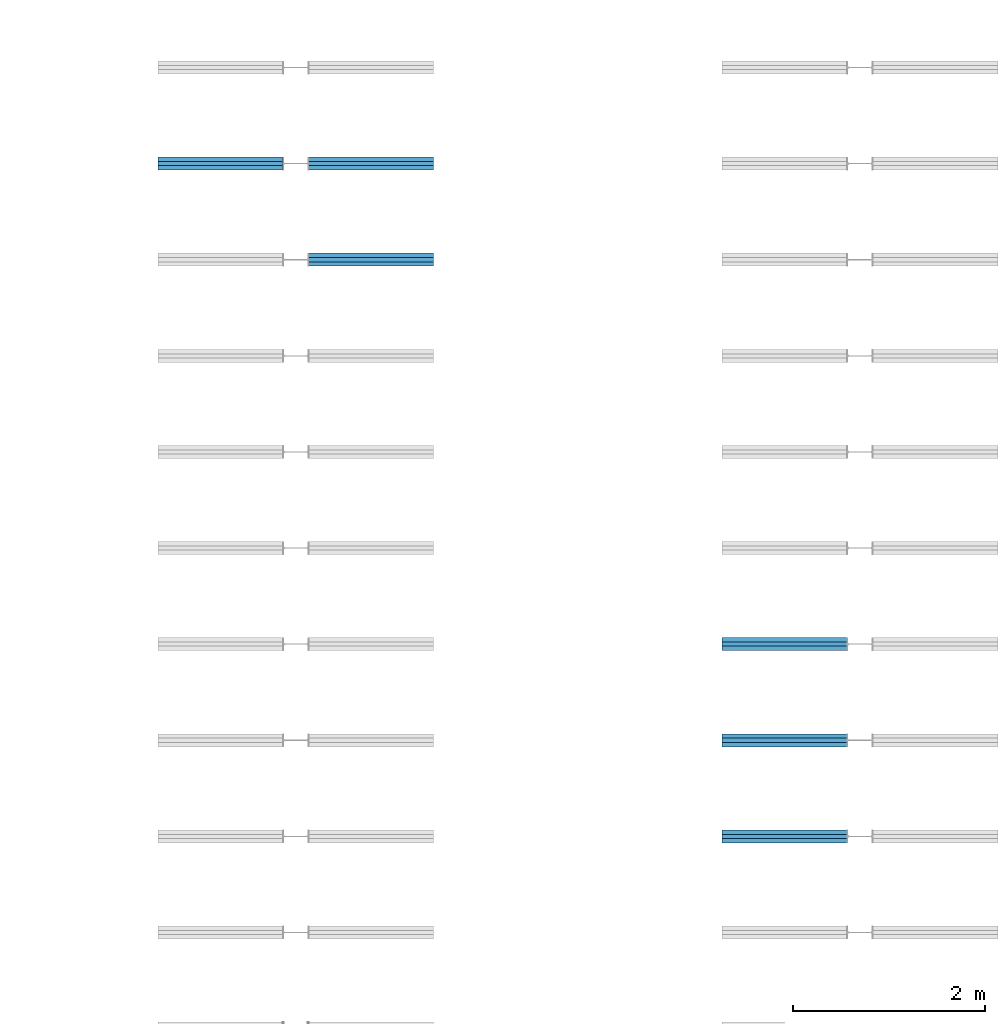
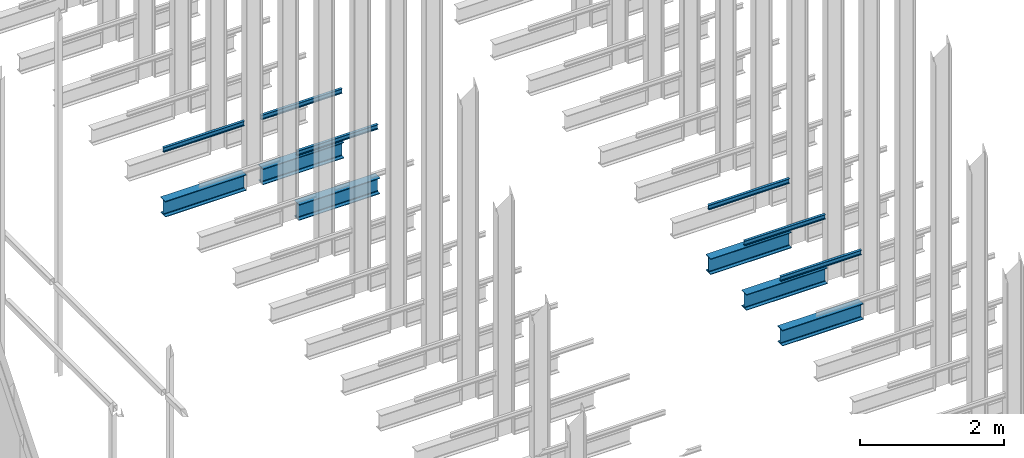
# One storey, part 168 of 302: 12 beams.
"""IFC2X3 building model written with IfcOpenShell, lengths in metres."""

from ifc_helpers import new_model, entity, si_unit, converted_unit, derived_unit, direction, frame, frame_2d, origin, place, context, subcontext, project, spatial, polyline, circle_curve, parameter, trimmed, segment, composite_curve, i_section, outline, extrude, material, type_object, element, save


model = new_model("IFC2X3")

# Units and contexts
model_context = context("Model", 3, precision=1e-05, world=origin(), true_north=direction((6.12303176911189e-17, 1.0)))
body_context = subcontext(model_context, "Body", "Model", "MODEL_VIEW")
ifc_project = project(units=[si_unit("LENGTHUNIT", "METRE"), si_unit("AREAUNIT", "SQUARE_METRE"), si_unit("VOLUMEUNIT", "CUBIC_METRE"), converted_unit("PLANEANGLEUNIT", "DEGREE", entity("IfcRatioMeasure", 0.0174532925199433), si_unit("PLANEANGLEUNIT", "RADIAN"), dimensions=[0, 0, 0, 0, 0, 0, 0]), si_unit("MASSUNIT", "GRAM", prefix="KILO"), derived_unit("MASSDENSITYUNIT", [(si_unit("MASSUNIT", "GRAM", prefix="KILO"), 1), (si_unit("LENGTHUNIT", "METRE"), -3)]), derived_unit("MOMENTOFINERTIAUNIT", [(si_unit("LENGTHUNIT", "METRE"), 4)]), si_unit("TIMEUNIT", "SECOND"), si_unit("FREQUENCYUNIT", "HERTZ"), si_unit("THERMODYNAMICTEMPERATUREUNIT", "DEGREE_CELSIUS"), derived_unit("THERMALTRANSMITTANCEUNIT", [(si_unit("MASSUNIT", "GRAM", prefix="KILO"), 1), (si_unit("THERMODYNAMICTEMPERATUREUNIT", "KELVIN"), -1), (si_unit("TIMEUNIT", "SECOND"), -3)]), derived_unit("VOLUMETRICFLOWRATEUNIT", [(si_unit("LENGTHUNIT", "METRE"), 3), (si_unit("TIMEUNIT", "SECOND"), -1)]), si_unit("ELECTRICCURRENTUNIT", "AMPERE"), si_unit("ELECTRICVOLTAGEUNIT", "VOLT"), si_unit("POWERUNIT", "WATT"), si_unit("FORCEUNIT", "NEWTON", prefix="KILO"), si_unit("ILLUMINANCEUNIT", "LUX"), si_unit("LUMINOUSFLUXUNIT", "LUMEN"), si_unit("LUMINOUSINTENSITYUNIT", "CANDELA"), derived_unit("USERDEFINED", [(si_unit("MASSUNIT", "GRAM", prefix="KILO"), -1), (si_unit("LENGTHUNIT", "METRE"), -2), (si_unit("TIMEUNIT", "SECOND"), 3), (si_unit("LUMINOUSFLUXUNIT", "LUMEN"), 1)]), derived_unit("LINEARVELOCITYUNIT", [(si_unit("LENGTHUNIT", "METRE"), 1), (si_unit("TIMEUNIT", "SECOND"), -1)]), si_unit("PRESSUREUNIT", "PASCAL"), derived_unit("USERDEFINED", [(si_unit("LENGTHUNIT", "METRE"), -2), (si_unit("MASSUNIT", "GRAM", prefix="KILO"), 1), (si_unit("TIMEUNIT", "SECOND"), -2)]), derived_unit("LINEARFORCEUNIT", [(si_unit("MASSUNIT", "GRAM", prefix="KILO"), 1), (si_unit("LENGTHUNIT", "METRE"), 1), (si_unit("TIMEUNIT", "SECOND"), -2), (si_unit("LENGTHUNIT", "METRE"), -1)]), derived_unit("PLANARFORCEUNIT", [(si_unit("MASSUNIT", "GRAM", prefix="KILO"), 1), (si_unit("LENGTHUNIT", "METRE"), 1), (si_unit("TIMEUNIT", "SECOND"), -2), (si_unit("LENGTHUNIT", "METRE"), -2)])], contexts=[model_context])

# Site, building, storey
site_placement = place(None, origin())
site = spatial("IfcSite", under=ifc_project, at=site_placement, Name="Default", CompositionType="ELEMENT")
building_placement = place(site_placement, origin())
building = spatial("IfcBuilding", under=site, at=building_placement, CompositionType="ELEMENT")
storey_placement = place(building_placement, frame((0.0, 0.0, -1.3)))
storey = spatial("IfcBuildingStorey", under=building, at=storey_placement, Name="00_EG", CompositionType="ELEMENT", Elevation=-1.3)

# Beams
ifc_material = material(Name="Metall - Baustahl S235")
beam_type_1 = type_object("IfcBeamType", Name="IPN Träger:IPN 80", PredefinedType="NOTDEFINED")
beam_1_placement = place(storey_placement, frame((-170.510111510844, 38.994588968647, 2.42)))
element("IfcBeam", 1, at=beam_1_placement, inside=storey, type_object=beam_type_1, material=ifc_material, Name="IPN Träger:IPN 80", ObjectType="IPN Träger:IPN 80", context=body_context, shape_type="SweptSolid", body=[
    extrude(outline(composite_curve([segment(polyline([(0.0375704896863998, -0.0209999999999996), (0.0399999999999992, -0.0209999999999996)]), True, "CONTINUOUS"), segment(polyline([(0.0399999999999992, -0.0210000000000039), (0.0399999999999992, 0.0209999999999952)]), True, "CONTINUOUS"), segment(polyline([(0.039999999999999, 0.0209999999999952), (0.037570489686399, 0.0209999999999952)]), True, "CONTINUOUS"), segment(trimmed(circle_curve(frame_2d((0.0375704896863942, 0.0187000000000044), x_axis=(0.0, 1.0)), 0.0022999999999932), [parameter(0.0)], [parameter(82.0300000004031)], True, "PARAMETER"), True, "CONTINUOUS"), segment(polyline([(0.0352927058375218, 0.019018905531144), (0.0333732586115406, 0.00530924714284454)]), True, "CONTINUOUS"), segment(trimmed(circle_curve(frame_2d((0.0295109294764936, 0.00584999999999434), x_axis=(0.990340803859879, -0.138654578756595)), 0.00389999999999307), [parameter(277.969999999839)], [parameter(0.0)], True, "PARAMETER"), False, "CONTINUOUS"), segment(polyline([(0.0295109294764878, 0.00194999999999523), (-0.0295109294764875, 0.00194999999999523)]), True, "CONTINUOUS"), segment(trimmed(circle_curve(frame_2d((-0.0295109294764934, 0.00584999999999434), x_axis=(0.0, -1.0)), 0.00389999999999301), [parameter(277.969999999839)], [parameter(0.0)], True, "PARAMETER"), False, "CONTINUOUS"), segment(polyline([(-0.0333732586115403, 0.00530924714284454), (-0.0352927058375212, 0.019018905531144)]), True, "CONTINUOUS"), segment(trimmed(circle_curve(frame_2d((-0.0375704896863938, 0.0187000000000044), x_axis=(0.990340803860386, 0.138654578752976)), 0.00229999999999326), [parameter(0.0)], [parameter(82.0300000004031)], True, "PARAMETER"), True, "CONTINUOUS"), segment(polyline([(-0.0375704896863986, 0.0209999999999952), (-0.0400000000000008, 0.0209999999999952)]), True, "CONTINUOUS"), segment(polyline([(-0.0400000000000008, 0.0210000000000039), (-0.0400000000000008, -0.0209999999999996)]), True, "CONTINUOUS"), segment(polyline([(-0.0400000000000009, -0.0209999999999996), (-0.037570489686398, -0.0209999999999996)]), True, "CONTINUOUS"), segment(trimmed(circle_curve(frame_2d((-0.0375704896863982, -0.0187000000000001), x_axis=(0.0, -1.0)), 0.00230000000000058), [parameter(0.0)], [parameter(82.029999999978)], True, "PARAMETER"), True, "CONTINUOUS"), segment(polyline([(-0.0352927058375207, -0.0190189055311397), (-0.0333732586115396, -0.00530924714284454)]), True, "CONTINUOUS"), segment(trimmed(circle_curve(frame_2d((-0.0295109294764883, -0.00584999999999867), x_axis=(-0.990340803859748, 0.138654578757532)), 0.00389999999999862), [parameter(277.969999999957)], [parameter(0.0)], True, "PARAMETER"), False, "CONTINUOUS"), segment(polyline([(-0.0295109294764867, -0.00194999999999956), (0.0295109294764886, -0.00194999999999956)]), True, "CONTINUOUS"), segment(trimmed(circle_curve(frame_2d((0.0295109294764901, -0.00584999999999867), x_axis=(0.0, 1.0)), 0.00389999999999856), [parameter(277.969999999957)], [parameter(0.0)], True, "PARAMETER"), False, "CONTINUOUS"), segment(polyline([(0.0333732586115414, -0.00530924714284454), (0.0352927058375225, -0.019018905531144)]), True, "CONTINUOUS"), segment(trimmed(circle_curve(frame_2d((0.0375704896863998, -0.0187000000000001), x_axis=(-0.990340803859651, -0.138654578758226)), 0.00230000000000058), [parameter(0.0)], [parameter(82.029999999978)], True, "PARAMETER"), True, "CONTINUOUS")], self_intersect=False)), frame((0.000100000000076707, 0.0209999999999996, -0.0400000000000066), z_axis=(1.0, 0.0, 0.0), x_axis=(0.0, 0.0, -1.0)), (0.0, 0.0, 1.0), 1.29990000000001),
])
beam_2_placement = place(storey_placement, frame((-170.780111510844, 39.036588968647, 2.42), z_axis=(0.0, 0.0, 1.0), x_axis=(-1.0, 0.0, 0.0)))
element("IfcBeam", 2, at=beam_2_placement, inside=storey, type_object=beam_type_1, material=ifc_material, Name="IPN Träger:IPN 80", ObjectType="IPN Träger:IPN 80", context=body_context, shape_type="SweptSolid", body=[
    extrude(outline(composite_curve([segment(polyline([(0.0375704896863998, -0.0210000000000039), (0.0399999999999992, -0.0210000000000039)]), True, "CONTINUOUS"), segment(polyline([(0.0399999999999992, -0.0210000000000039), (0.0399999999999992, 0.0209999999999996)]), True, "CONTINUOUS"), segment(polyline([(0.039999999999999, 0.0209999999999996), (0.037570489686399, 0.0209999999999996)]), True, "CONTINUOUS"), segment(trimmed(circle_curve(frame_2d((0.037570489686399, 0.0187000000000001), x_axis=(0.0, 1.0)), 0.00230000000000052), [parameter(0.0)], [parameter(82.0299999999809)], True, "PARAMETER"), True, "CONTINUOUS"), segment(polyline([(0.0352927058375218, 0.0190189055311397), (0.0333732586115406, 0.0053092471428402)]), True, "CONTINUOUS"), segment(trimmed(circle_curve(frame_2d((0.0295109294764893, 0.00584999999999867), x_axis=(0.990340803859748, -0.138654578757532)), 0.00389999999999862), [parameter(277.969999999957)], [parameter(0.0)], True, "PARAMETER"), False, "CONTINUOUS"), segment(polyline([(0.0295109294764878, 0.00194999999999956), (-0.0295109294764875, 0.00194999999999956)]), True, "CONTINUOUS"), segment(trimmed(circle_curve(frame_2d((-0.029510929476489, 0.00584999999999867), x_axis=(0.0, -1.0)), 0.00389999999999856), [parameter(277.969999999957)], [parameter(0.0)], True, "PARAMETER"), False, "CONTINUOUS"), segment(polyline([(-0.0333732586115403, 0.00530924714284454), (-0.0352927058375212, 0.019018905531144)]), True, "CONTINUOUS"), segment(trimmed(circle_curve(frame_2d((-0.0375704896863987, 0.0187000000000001), x_axis=(0.990340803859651, 0.138654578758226)), 0.00230000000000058), [parameter(0.0)], [parameter(82.029999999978)], True, "PARAMETER"), True, "CONTINUOUS"), segment(polyline([(-0.0375704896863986, 0.0209999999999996), (-0.0400000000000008, 0.0209999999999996)]), True, "CONTINUOUS"), segment(polyline([(-0.0400000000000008, 0.0209999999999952), (-0.0400000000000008, -0.0210000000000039)]), True, "CONTINUOUS"), segment(polyline([(-0.0400000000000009, -0.0210000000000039), (-0.037570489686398, -0.0210000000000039)]), True, "CONTINUOUS"), segment(trimmed(circle_curve(frame_2d((-0.0375704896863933, -0.0187000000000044), x_axis=(0.0, -1.0)), 0.00229999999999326), [parameter(0.0)], [parameter(82.0300000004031)], True, "PARAMETER"), True, "CONTINUOUS"), segment(polyline([(-0.0352927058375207, -0.019018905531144), (-0.0333732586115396, -0.00530924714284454)]), True, "CONTINUOUS"), segment(trimmed(circle_curve(frame_2d((-0.0295109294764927, -0.00584999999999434), x_axis=(-0.990340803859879, 0.138654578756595)), 0.00389999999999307), [parameter(277.969999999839)], [parameter(0.0)], True, "PARAMETER"), False, "CONTINUOUS"), segment(polyline([(-0.0295109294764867, -0.00195000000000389), (0.0295109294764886, -0.00195000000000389)]), True, "CONTINUOUS"), segment(trimmed(circle_curve(frame_2d((0.0295109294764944, -0.00584999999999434), x_axis=(0.0, 1.0)), 0.00389999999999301), [parameter(277.969999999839)], [parameter(0.0)], True, "PARAMETER"), False, "CONTINUOUS"), segment(polyline([(0.0333732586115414, -0.00530924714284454), (0.0352927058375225, -0.019018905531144)]), True, "CONTINUOUS"), segment(trimmed(circle_curve(frame_2d((0.0375704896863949, -0.0187000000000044), x_axis=(-0.990340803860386, -0.138654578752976)), 0.00229999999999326), [parameter(0.0)], [parameter(82.0300000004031)], True, "PARAMETER"), True, "CONTINUOUS")], self_intersect=False)), frame((0.000100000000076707, 0.0209999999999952, -0.0400000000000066), z_axis=(1.0, 0.0, 0.0), x_axis=(0.0, 0.0, -1.0)), (0.0, 0.0, 1.0), 1.29990000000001),
])
beam_3_placement = place(storey_placement, frame((-170.510111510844, 37.994588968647, 2.42)))
element("IfcBeam", 3, at=beam_3_placement, inside=storey, type_object=beam_type_1, material=ifc_material, Name="IPN Träger:IPN 80", ObjectType="IPN Träger:IPN 80", context=body_context, shape_type="SweptSolid", body=[
    extrude(outline(composite_curve([segment(polyline([(0.0375704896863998, -0.0209999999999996), (0.0399999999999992, -0.0209999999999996)]), True, "CONTINUOUS"), segment(polyline([(0.0399999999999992, -0.0209999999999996), (0.0399999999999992, 0.0209999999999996)]), True, "CONTINUOUS"), segment(polyline([(0.039999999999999, 0.0209999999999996), (0.037570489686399, 0.0209999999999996)]), True, "CONTINUOUS"), segment(trimmed(circle_curve(frame_2d((0.037570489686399, 0.0187000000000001), x_axis=(0.0, 1.0)), 0.00230000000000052), [parameter(0.0)], [parameter(82.0299999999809)], True, "PARAMETER"), True, "CONTINUOUS"), segment(polyline([(0.0352927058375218, 0.0190189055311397), (0.0333732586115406, 0.00530924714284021)]), True, "CONTINUOUS"), segment(trimmed(circle_curve(frame_2d((0.0295109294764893, 0.00584999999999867), x_axis=(0.990340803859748, -0.138654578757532)), 0.00389999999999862), [parameter(277.969999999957)], [parameter(0.0)], True, "PARAMETER"), False, "CONTINUOUS"), segment(polyline([(0.0295109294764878, 0.00194999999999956), (-0.0295109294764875, 0.00194999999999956)]), True, "CONTINUOUS"), segment(trimmed(circle_curve(frame_2d((-0.029510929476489, 0.00584999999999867), x_axis=(0.0, -1.0)), 0.00389999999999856), [parameter(277.969999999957)], [parameter(0.0)], True, "PARAMETER"), False, "CONTINUOUS"), segment(polyline([(-0.0333732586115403, 0.00530924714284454), (-0.0352927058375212, 0.019018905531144)]), True, "CONTINUOUS"), segment(trimmed(circle_curve(frame_2d((-0.0375704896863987, 0.0187000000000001), x_axis=(0.990340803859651, 0.138654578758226)), 0.00230000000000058), [parameter(0.0)], [parameter(82.029999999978)], True, "PARAMETER"), True, "CONTINUOUS"), segment(polyline([(-0.0375704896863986, 0.0209999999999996), (-0.0400000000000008, 0.0209999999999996)]), True, "CONTINUOUS"), segment(polyline([(-0.0400000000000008, 0.0209999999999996), (-0.0400000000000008, -0.0209999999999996)]), True, "CONTINUOUS"), segment(polyline([(-0.0400000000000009, -0.0209999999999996), (-0.037570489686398, -0.0209999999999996)]), True, "CONTINUOUS"), segment(trimmed(circle_curve(frame_2d((-0.0375704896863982, -0.0187000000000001), x_axis=(0.0, -1.0)), 0.00230000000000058), [parameter(0.0)], [parameter(82.029999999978)], True, "PARAMETER"), True, "CONTINUOUS"), segment(polyline([(-0.0352927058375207, -0.0190189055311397), (-0.0333732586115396, -0.00530924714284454)]), True, "CONTINUOUS"), segment(trimmed(circle_curve(frame_2d((-0.0295109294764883, -0.00584999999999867), x_axis=(-0.990340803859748, 0.138654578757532)), 0.00389999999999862), [parameter(277.969999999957)], [parameter(0.0)], True, "PARAMETER"), False, "CONTINUOUS"), segment(polyline([(-0.0295109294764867, -0.00194999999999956), (0.0295109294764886, -0.00194999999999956)]), True, "CONTINUOUS"), segment(trimmed(circle_curve(frame_2d((0.0295109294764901, -0.00584999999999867), x_axis=(0.0, 1.0)), 0.00389999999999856), [parameter(277.969999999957)], [parameter(0.0)], True, "PARAMETER"), False, "CONTINUOUS"), segment(polyline([(0.0333732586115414, -0.00530924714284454), (0.0352927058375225, -0.019018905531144)]), True, "CONTINUOUS"), segment(trimmed(circle_curve(frame_2d((0.0375704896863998, -0.0187000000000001), x_axis=(-0.990340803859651, -0.138654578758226)), 0.00230000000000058), [parameter(0.0)], [parameter(82.029999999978)], True, "PARAMETER"), True, "CONTINUOUS")], self_intersect=False)), frame((0.000100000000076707, 0.0209999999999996, -0.0400000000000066), z_axis=(1.0, 0.0, 0.0), x_axis=(0.0, 0.0, -1.0)), (0.0, 0.0, 1.0), 1.29990000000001),
])
beam_4_placement = place(storey_placement, frame((-164.910111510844, 34.036588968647, 2.42), z_axis=(0.0, 0.0, 1.0), x_axis=(-1.0, 0.0, 0.0)))
element("IfcBeam", 4, at=beam_4_placement, inside=storey, type_object=beam_type_1, material=ifc_material, Name="IPN Träger:IPN 80", ObjectType="IPN Träger:IPN 80", context=body_context, shape_type="SweptSolid", body=[
    extrude(outline(composite_curve([segment(polyline([(0.0375704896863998, -0.0209999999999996), (0.0399999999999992, -0.0209999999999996)]), True, "CONTINUOUS"), segment(polyline([(0.0399999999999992, -0.0209999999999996), (0.0399999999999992, 0.0209999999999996)]), True, "CONTINUOUS"), segment(polyline([(0.039999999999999, 0.0209999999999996), (0.037570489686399, 0.0209999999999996)]), True, "CONTINUOUS"), segment(trimmed(circle_curve(frame_2d((0.037570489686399, 0.0187000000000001), x_axis=(0.0, 1.0)), 0.00230000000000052), [parameter(0.0)], [parameter(82.0299999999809)], True, "PARAMETER"), True, "CONTINUOUS"), segment(polyline([(0.0352927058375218, 0.0190189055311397), (0.0333732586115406, 0.00530924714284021)]), True, "CONTINUOUS"), segment(trimmed(circle_curve(frame_2d((0.0295109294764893, 0.00584999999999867), x_axis=(0.990340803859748, -0.138654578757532)), 0.00389999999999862), [parameter(277.969999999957)], [parameter(0.0)], True, "PARAMETER"), False, "CONTINUOUS"), segment(polyline([(0.0295109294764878, 0.00194999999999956), (-0.0295109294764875, 0.00194999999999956)]), True, "CONTINUOUS"), segment(trimmed(circle_curve(frame_2d((-0.029510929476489, 0.00584999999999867), x_axis=(0.0, -1.0)), 0.00389999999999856), [parameter(277.969999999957)], [parameter(0.0)], True, "PARAMETER"), False, "CONTINUOUS"), segment(polyline([(-0.0333732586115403, 0.00530924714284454), (-0.0352927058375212, 0.019018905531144)]), True, "CONTINUOUS"), segment(trimmed(circle_curve(frame_2d((-0.0375704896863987, 0.0187000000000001), x_axis=(0.990340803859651, 0.138654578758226)), 0.00230000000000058), [parameter(0.0)], [parameter(82.029999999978)], True, "PARAMETER"), True, "CONTINUOUS"), segment(polyline([(-0.0375704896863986, 0.0209999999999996), (-0.0400000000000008, 0.0209999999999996)]), True, "CONTINUOUS"), segment(polyline([(-0.0400000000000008, 0.0209999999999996), (-0.0400000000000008, -0.0209999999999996)]), True, "CONTINUOUS"), segment(polyline([(-0.0400000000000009, -0.0209999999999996), (-0.037570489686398, -0.0209999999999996)]), True, "CONTINUOUS"), segment(trimmed(circle_curve(frame_2d((-0.0375704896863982, -0.0187000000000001), x_axis=(0.0, -1.0)), 0.00230000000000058), [parameter(0.0)], [parameter(82.029999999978)], True, "PARAMETER"), True, "CONTINUOUS"), segment(polyline([(-0.0352927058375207, -0.0190189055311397), (-0.0333732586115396, -0.00530924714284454)]), True, "CONTINUOUS"), segment(trimmed(circle_curve(frame_2d((-0.0295109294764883, -0.00584999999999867), x_axis=(-0.990340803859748, 0.138654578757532)), 0.00389999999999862), [parameter(277.969999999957)], [parameter(0.0)], True, "PARAMETER"), False, "CONTINUOUS"), segment(polyline([(-0.0295109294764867, -0.00194999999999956), (0.0295109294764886, -0.00194999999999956)]), True, "CONTINUOUS"), segment(trimmed(circle_curve(frame_2d((0.0295109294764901, -0.00584999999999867), x_axis=(0.0, 1.0)), 0.00389999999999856), [parameter(277.969999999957)], [parameter(0.0)], True, "PARAMETER"), False, "CONTINUOUS"), segment(polyline([(0.0333732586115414, -0.00530924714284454), (0.0352927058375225, -0.019018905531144)]), True, "CONTINUOUS"), segment(trimmed(circle_curve(frame_2d((0.0375704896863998, -0.0187000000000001), x_axis=(-0.990340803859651, -0.138654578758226)), 0.00230000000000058), [parameter(0.0)], [parameter(82.029999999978)], True, "PARAMETER"), True, "CONTINUOUS")], self_intersect=False)), frame((0.000100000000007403, 0.0209999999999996, -0.0400000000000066), z_axis=(1.0, 0.0, 0.0), x_axis=(0.0, 0.0, -1.0)), (0.0, 0.0, 1.0), 1.29990000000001),
])
beam_5_placement = place(storey_placement, frame((-164.910111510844, 33.036588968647, 2.42), z_axis=(0.0, 0.0, 1.0), x_axis=(-1.0, 0.0, 0.0)))
element("IfcBeam", 5, at=beam_5_placement, inside=storey, type_object=beam_type_1, material=ifc_material, Name="IPN Träger:IPN 80", ObjectType="IPN Träger:IPN 80", context=body_context, shape_type="SweptSolid", body=[
    extrude(outline(composite_curve([segment(polyline([(0.0375704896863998, -0.0209999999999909), (0.0399999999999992, -0.0209999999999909)]), True, "CONTINUOUS"), segment(polyline([(0.0399999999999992, -0.0209999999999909), (0.0399999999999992, 0.0210000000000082)]), True, "CONTINUOUS"), segment(polyline([(0.039999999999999, 0.0210000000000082), (0.037570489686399, 0.0210000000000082)]), True, "CONTINUOUS"), segment(trimmed(circle_curve(frame_2d((0.037570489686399, 0.0187000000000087), x_axis=(0.0, 1.0)), 0.00230000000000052), [parameter(0.0)], [parameter(82.0299999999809)], True, "PARAMETER"), True, "CONTINUOUS"), segment(polyline([(0.0352927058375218, 0.0190189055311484), (0.0333732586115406, 0.00530924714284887)]), True, "CONTINUOUS"), segment(trimmed(circle_curve(frame_2d((0.0295109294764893, 0.00585000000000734), x_axis=(0.990340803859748, -0.138654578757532)), 0.00389999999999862), [parameter(277.969999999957)], [parameter(0.0)], True, "PARAMETER"), False, "CONTINUOUS"), segment(polyline([(0.0295109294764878, 0.00195000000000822), (-0.0295109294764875, 0.00195000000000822)]), True, "CONTINUOUS"), segment(trimmed(circle_curve(frame_2d((-0.029510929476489, 0.00585000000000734), x_axis=(0.0, -1.0)), 0.00389999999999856), [parameter(277.969999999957)], [parameter(0.0)], True, "PARAMETER"), False, "CONTINUOUS"), segment(polyline([(-0.0333732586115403, 0.0053092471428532), (-0.0352927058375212, 0.0190189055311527)]), True, "CONTINUOUS"), segment(trimmed(circle_curve(frame_2d((-0.0375704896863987, 0.0187000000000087), x_axis=(0.990340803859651, 0.138654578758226)), 0.00230000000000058), [parameter(0.0)], [parameter(82.029999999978)], True, "PARAMETER"), True, "CONTINUOUS"), segment(polyline([(-0.0375704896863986, 0.0210000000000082), (-0.0400000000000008, 0.0210000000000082)]), True, "CONTINUOUS"), segment(polyline([(-0.0400000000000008, 0.0210000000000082), (-0.0400000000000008, -0.0209999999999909)]), True, "CONTINUOUS"), segment(polyline([(-0.0400000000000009, -0.0209999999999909), (-0.037570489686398, -0.0209999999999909)]), True, "CONTINUOUS"), segment(trimmed(circle_curve(frame_2d((-0.0375704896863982, -0.0186999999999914), x_axis=(0.0, -1.0)), 0.00230000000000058), [parameter(0.0)], [parameter(82.029999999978)], True, "PARAMETER"), True, "CONTINUOUS"), segment(polyline([(-0.0352927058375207, -0.019018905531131), (-0.0333732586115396, -0.00530924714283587)]), True, "CONTINUOUS"), segment(trimmed(circle_curve(frame_2d((-0.0295109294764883, -0.00584999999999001), x_axis=(-0.990340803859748, 0.138654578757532)), 0.00389999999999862), [parameter(277.969999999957)], [parameter(0.0)], True, "PARAMETER"), False, "CONTINUOUS"), segment(polyline([(-0.0295109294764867, -0.00194999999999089), (0.0295109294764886, -0.00194999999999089)]), True, "CONTINUOUS"), segment(trimmed(circle_curve(frame_2d((0.0295109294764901, -0.00584999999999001), x_axis=(0.0, 1.0)), 0.00389999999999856), [parameter(277.969999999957)], [parameter(0.0)], True, "PARAMETER"), False, "CONTINUOUS"), segment(polyline([(0.0333732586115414, -0.00530924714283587), (0.0352927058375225, -0.0190189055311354)]), True, "CONTINUOUS"), segment(trimmed(circle_curve(frame_2d((0.0375704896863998, -0.0186999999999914), x_axis=(-0.990340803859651, -0.138654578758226)), 0.00230000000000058), [parameter(0.0)], [parameter(82.029999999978)], True, "PARAMETER"), True, "CONTINUOUS")], self_intersect=False)), frame((0.000100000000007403, 0.0209999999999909, -0.0400000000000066), z_axis=(1.0, 0.0, 0.0), x_axis=(0.0, 0.0, -1.0)), (0.0, 0.0, 1.0), 1.29990000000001),
])
beam_6_placement = place(storey_placement, frame((-164.910111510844, 32.036588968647, 2.42), z_axis=(0.0, 0.0, 1.0), x_axis=(-1.0, 0.0, 0.0)))
element("IfcBeam", 6, at=beam_6_placement, inside=storey, type_object=beam_type_1, material=ifc_material, Name="IPN Träger:IPN 80", ObjectType="IPN Träger:IPN 80", context=body_context, shape_type="SweptSolid", body=[
    extrude(outline(composite_curve([segment(polyline([(0.0375704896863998, -0.0210000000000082), (0.0399999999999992, -0.0210000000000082)]), True, "CONTINUOUS"), segment(polyline([(0.0399999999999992, -0.0210000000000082), (0.0399999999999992, 0.0209999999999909)]), True, "CONTINUOUS"), segment(polyline([(0.039999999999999, 0.0209999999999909), (0.037570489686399, 0.0209999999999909)]), True, "CONTINUOUS"), segment(trimmed(circle_curve(frame_2d((0.037570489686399, 0.0186999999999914), x_axis=(0.0, 1.0)), 0.00230000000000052), [parameter(0.0)], [parameter(82.0299999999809)], True, "PARAMETER"), True, "CONTINUOUS"), segment(polyline([(0.0352927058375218, 0.019018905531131), (0.0333732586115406, 0.00530924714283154)]), True, "CONTINUOUS"), segment(trimmed(circle_curve(frame_2d((0.0295109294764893, 0.00584999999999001), x_axis=(0.990340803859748, -0.138654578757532)), 0.00389999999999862), [parameter(277.969999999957)], [parameter(0.0)], True, "PARAMETER"), False, "CONTINUOUS"), segment(polyline([(0.0295109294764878, 0.00194999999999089), (-0.0295109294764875, 0.00194999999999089)]), True, "CONTINUOUS"), segment(trimmed(circle_curve(frame_2d((-0.029510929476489, 0.00584999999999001), x_axis=(0.0, -1.0)), 0.00389999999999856), [parameter(277.969999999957)], [parameter(0.0)], True, "PARAMETER"), False, "CONTINUOUS"), segment(polyline([(-0.0333732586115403, 0.00530924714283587), (-0.0352927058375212, 0.0190189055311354)]), True, "CONTINUOUS"), segment(trimmed(circle_curve(frame_2d((-0.0375704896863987, 0.0186999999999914), x_axis=(0.990340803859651, 0.138654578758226)), 0.00230000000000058), [parameter(0.0)], [parameter(82.029999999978)], True, "PARAMETER"), True, "CONTINUOUS"), segment(polyline([(-0.0375704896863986, 0.0209999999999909), (-0.0400000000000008, 0.0209999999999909)]), True, "CONTINUOUS"), segment(polyline([(-0.0400000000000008, 0.0209999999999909), (-0.0400000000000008, -0.0210000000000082)]), True, "CONTINUOUS"), segment(polyline([(-0.0400000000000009, -0.0210000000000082), (-0.037570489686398, -0.0210000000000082)]), True, "CONTINUOUS"), segment(trimmed(circle_curve(frame_2d((-0.0375704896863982, -0.0187000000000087), x_axis=(0.0, -1.0)), 0.00230000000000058), [parameter(0.0)], [parameter(82.029999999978)], True, "PARAMETER"), True, "CONTINUOUS"), segment(polyline([(-0.0352927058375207, -0.0190189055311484), (-0.0333732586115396, -0.0053092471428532)]), True, "CONTINUOUS"), segment(trimmed(circle_curve(frame_2d((-0.0295109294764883, -0.00585000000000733), x_axis=(-0.990340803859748, 0.138654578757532)), 0.00389999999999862), [parameter(277.969999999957)], [parameter(0.0)], True, "PARAMETER"), False, "CONTINUOUS"), segment(polyline([(-0.0295109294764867, -0.00195000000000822), (0.0295109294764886, -0.00195000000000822)]), True, "CONTINUOUS"), segment(trimmed(circle_curve(frame_2d((0.0295109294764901, -0.00585000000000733), x_axis=(0.0, 1.0)), 0.00389999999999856), [parameter(277.969999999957)], [parameter(0.0)], True, "PARAMETER"), False, "CONTINUOUS"), segment(polyline([(0.0333732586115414, -0.0053092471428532), (0.0352927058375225, -0.0190189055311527)]), True, "CONTINUOUS"), segment(trimmed(circle_curve(frame_2d((0.0375704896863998, -0.0187000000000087), x_axis=(-0.990340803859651, -0.138654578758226)), 0.00230000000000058), [parameter(0.0)], [parameter(82.029999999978)], True, "PARAMETER"), True, "CONTINUOUS")], self_intersect=False)), frame((0.000100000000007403, 0.0210000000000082, -0.0400000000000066), z_axis=(1.0, 0.0, 0.0), x_axis=(0.0, 0.0, -1.0)), (0.0, 0.0, 1.0), 1.29990000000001),
])
beam_type_2 = type_object("IfcBeamType", Name="IPE Träger:IPE 270", PredefinedType="NOTDEFINED")
beam_7_placement = place(storey_placement, frame((-170.510111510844, 38.083088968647, 1.54000000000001)))
element("IfcBeam", 7, at=beam_7_placement, inside=storey, type_object=beam_type_2, material=ifc_material, Name="IPE Träger:IPE 270", ObjectType="IPE Träger:IPE 270", context=body_context, shape_type="SweptSolid", body=[
    extrude(i_section(OverallWidth=0.134999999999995, OverallDepth=0.27, WebThickness=0.00660000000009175, FlangeThickness=0.0102000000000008, FilletRadius=0.0150000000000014, at=frame_2d((5.96744875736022e-16, 2.16493489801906e-15), x_axis=(0.0, 1.0))), frame((0.000100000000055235, -0.0674999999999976, -0.135000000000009), z_axis=(1.0, 0.0, 0.0), x_axis=(0.0, 0.0, -1.0)), (0.0, 0.0, 1.0), 1.29990000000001),
])
beam_8_placement = place(storey_placement, frame((-170.780111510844, 39.083088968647, 1.54000000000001), z_axis=(0.0, 0.0, 1.0), x_axis=(-1.0, 0.0, 0.0)))
element("IfcBeam", 8, at=beam_8_placement, inside=storey, type_object=beam_type_2, material=ifc_material, Name="IPE Träger:IPE 270", ObjectType="IPE Träger:IPE 270", context=body_context, shape_type="SweptSolid", body=[
    extrude(i_section(OverallWidth=0.134999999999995, OverallDepth=0.27, WebThickness=0.0065999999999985, FlangeThickness=0.0102000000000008, FilletRadius=0.0149999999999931, at=frame_2d((6.24500451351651e-16, 6.50174358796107e-15), x_axis=(0.0, 1.0))), frame((0.000100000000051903, 0.0674999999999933, -0.135000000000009), z_axis=(1.0, 0.0, 0.0), x_axis=(0.0, 0.0, -1.0)), (0.0, 0.0, 1.0), 1.29990000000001),
])
beam_9_placement = place(storey_placement, frame((-170.510111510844, 39.083088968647, 1.54000000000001)))
element("IfcBeam", 9, at=beam_9_placement, inside=storey, type_object=beam_type_2, material=ifc_material, Name="IPE Träger:IPE 270", ObjectType="IPE Träger:IPE 270", context=body_context, shape_type="SweptSolid", body=[
    extrude(i_section(OverallWidth=0.134999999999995, OverallDepth=0.27, WebThickness=0.00660000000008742, FlangeThickness=0.0102000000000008, FilletRadius=0.0150000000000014, at=frame_2d((5.82867087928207e-16, -4.32986979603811e-15), x_axis=(0.0, 1.0))), frame((0.000100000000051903, -0.0674999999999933, -0.135000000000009), z_axis=(1.0, 0.0, 0.0), x_axis=(0.0, 0.0, -1.0)), (0.0, 0.0, 1.0), 1.29990000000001),
])
beam_10_placement = place(storey_placement, frame((-164.910111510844, 32.083088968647, 1.54000000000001), z_axis=(0.0, 0.0, 1.0), x_axis=(-1.0, 0.0, 0.0)))
element("IfcBeam", 10, at=beam_10_placement, inside=storey, type_object=beam_type_2, material=ifc_material, Name="IPE Träger:IPE 270", ObjectType="IPE Träger:IPE 270", context=body_context, shape_type="SweptSolid", body=[
    extrude(i_section(OverallWidth=0.134999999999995, OverallDepth=0.27, WebThickness=0.00660000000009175, FlangeThickness=0.0102000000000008, FilletRadius=0.0150000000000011, at=frame_2d((5.96744875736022e-16, -6.49480469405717e-15), x_axis=(0.0, 1.0))), frame((0.000100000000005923, 0.0675000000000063, -0.135000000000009), z_axis=(1.0, 0.0, 0.0), x_axis=(0.0, 0.0, -1.0)), (0.0, 0.0, 1.0), 1.29990000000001),
])
beam_11_placement = place(storey_placement, frame((-164.910111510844, 33.083088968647, 1.54000000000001), z_axis=(0.0, 0.0, 1.0), x_axis=(-1.0, 0.0, 0.0)))
element("IfcBeam", 11, at=beam_11_placement, inside=storey, type_object=beam_type_2, material=ifc_material, Name="IPE Träger:IPE 270", ObjectType="IPE Träger:IPE 270", context=body_context, shape_type="SweptSolid", body=[
    extrude(i_section(OverallWidth=0.134999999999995, OverallDepth=0.27, WebThickness=0.00660000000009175, FlangeThickness=0.0102000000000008, FilletRadius=0.0150000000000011, at=frame_2d((5.96744875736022e-16, -6.49480469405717e-15), x_axis=(0.0, 1.0))), frame((0.000100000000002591, 0.0675000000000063, -0.135000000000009), z_axis=(1.0, 0.0, 0.0), x_axis=(0.0, 0.0, -1.0)), (0.0, 0.0, 1.0), 1.29990000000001),
])
beam_12_placement = place(storey_placement, frame((-164.910111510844, 34.083088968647, 1.54000000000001), z_axis=(0.0, 0.0, 1.0), x_axis=(-1.0, 0.0, 0.0)))
element("IfcBeam", 12, at=beam_12_placement, inside=storey, type_object=beam_type_2, material=ifc_material, Name="IPE Träger:IPE 270", ObjectType="IPE Träger:IPE 270", context=body_context, shape_type="SweptSolid", body=[
    extrude(i_section(OverallWidth=0.134999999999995, OverallDepth=0.27, WebThickness=0.00660000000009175, FlangeThickness=0.0102000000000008, FilletRadius=0.0150000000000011, at=frame_2d((5.96744875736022e-16, 2.16493489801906e-15), x_axis=(0.0, 1.0))), frame((9.9999999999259e-05, 0.0674999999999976, -0.135000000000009), z_axis=(1.0, 0.0, 0.0), x_axis=(0.0, 0.0, -1.0)), (0.0, 0.0, 1.0), 1.29990000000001),
])

save(model, "model.ifc")
